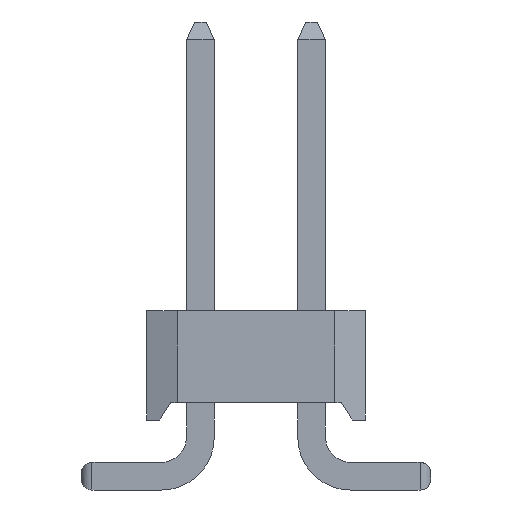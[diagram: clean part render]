
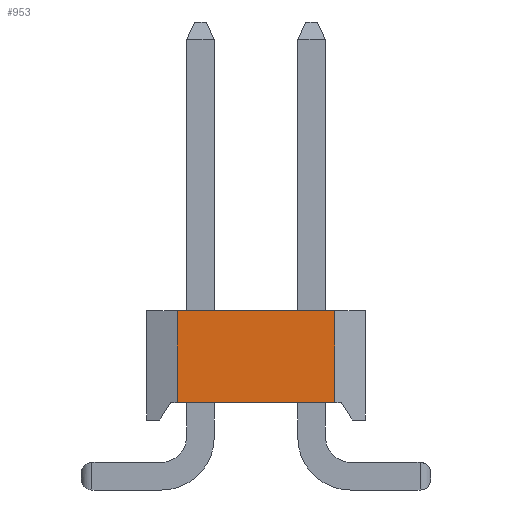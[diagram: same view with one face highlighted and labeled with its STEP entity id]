
A CAD part, left-side view. The second image highlights one B-rep face of the part: STEP entity #953.
In plain terms, the highlighted planar face has unit normal (-1, 0, 0).
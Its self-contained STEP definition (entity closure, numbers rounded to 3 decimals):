
#953=ADVANCED_FACE('',(#3553),#2415,.T.);
#2415=PLANE('',#26114);
#3553=FACE_OUTER_BOUND('',#5123,.T.);
#5123=EDGE_LOOP('',(#7502,#7503,#7504,#7505));
#7502=ORIENTED_EDGE('',*,*,#16969,.F.);
#7503=ORIENTED_EDGE('',*,*,#16746,.T.);
#7504=ORIENTED_EDGE('',*,*,#16970,.T.);
#7505=ORIENTED_EDGE('',*,*,#16468,.T.);
#14196=VERTEX_POINT('',#35822);
#14197=VERTEX_POINT('',#35824);
#14474=VERTEX_POINT('',#36382);
#14475=VERTEX_POINT('',#36383);
#16468=EDGE_CURVE('',#14197,#14196,#20092,.T.);
#16746=EDGE_CURVE('',#14474,#14475,#20370,.T.);
#16969=EDGE_CURVE('',#14474,#14196,#20593,.T.);
#16970=EDGE_CURVE('',#14475,#14197,#20594,.T.);
#20092=LINE('',#35823,#23284);
#20370=LINE('',#36381,#23562);
#20593=LINE('',#36776,#23785);
#20594=LINE('',#36777,#23786);
#23284=VECTOR('',#28473,1.);
#23562=VECTOR('',#28757,1.);
#23785=VECTOR('',#28984,1.);
#23786=VECTOR('',#28985,1.);
#26114=AXIS2_PLACEMENT_3D('',#36778,#28986,#28987);
#28473=DIRECTION('',(0.,-1.,0.));
#28757=DIRECTION('',(0.,1.,0.));
#28984=DIRECTION('',(0.,0.,-1.));
#28985=DIRECTION('',(0.,0.,-1.));
#28986=DIRECTION('',(-1.,0.,0.));
#28987=DIRECTION('',(0.,0.,1.));
#35822=CARTESIAN_POINT('',(0.,0.7,0.));
#35823=CARTESIAN_POINT('',(0.,2.5,0.));
#35824=CARTESIAN_POINT('',(0.,4.3,0.));
#36381=CARTESIAN_POINT('',(0.,2.5,2.1));
#36382=CARTESIAN_POINT('',(0.,0.7,2.1));
#36383=CARTESIAN_POINT('',(0.,4.3,2.1));
#36776=CARTESIAN_POINT('',(0.,0.7,0.));
#36777=CARTESIAN_POINT('',(0.,4.3,0.));
#36778=CARTESIAN_POINT('',(0.,2.5,0.));
